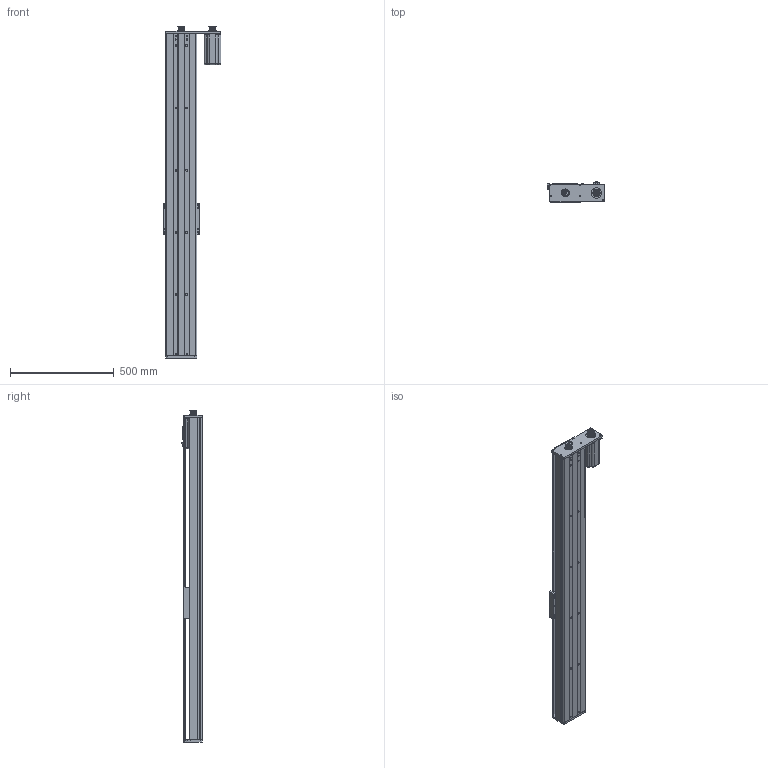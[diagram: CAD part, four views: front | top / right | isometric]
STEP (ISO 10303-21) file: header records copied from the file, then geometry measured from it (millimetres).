
FILE_DESCRIPTION (( 'STEP AP214' ), '1' );
FILE_NAME ('CF150-20-C-P1350-FWR.STEP', '2016-04-24T02:37:51', ( '' ), ( '' ), 'SwSTEP 2.0', 'SolidWorks 2015', '' );
FILE_SCHEMA (( 'AUTOMOTIVE_DESIGN' ));
Length unit declared in the file: millimetre
Products named in the file (21): HGR15-P400絳寢; CF150-20-C-P1350-FWR; SFU2010-P400-BK15+BF15佪裝萇儂奻耜; BF15; 20-5M-20-囀噤10; 80机座海德伺服电机; CF150-蹟譫釱; CF150萇儂酘耜臏倰第-P1350; BK15; hGH15CA賑輸; 撑圈-15; M15X1坶踡蹟譫; 150-电机右侧伺服80安装板; 长撑圈-15; CF150賑雄啣; CF150耜啣; ѹȦ-15; deep groove ball bearings gb_Rolling bearings 6002 GB 276-94; CF150萇儂酘耜蚾裔啣-P1350; SFU2010-3蹟譫
Assembly tree (26 placements, depth 3):
  CF150-20-C-P1350-FWR
    hGH15CA賑輸  x4
    BF15
    BK15
      deep groove ball bearings gb_Rolling bearings 6002 GB 276-94  x2
      ѹȦ-15
      长撑圈-15
      M15X1坶踡蹟譫
      撑圈-15
      BK15
    CF150萇儂酘耜蚾裔啣-P1350
    CF150萇儂酘耜臏倰第-P1350
    CF150耜啣
    CF150賑雄啣
    CF150-蹟譫釱
    SFU2010-3蹟譫
    SFU2010-P400-BK15+BF15佪裝萇儂奻耜
    HGR15-P400絳寢  x2
    20-5M-20-囀噤10  x2
    80机座海德伺服电机
    150-电机右侧伺服80安装板
Bounding box: 277.5 x 97.89 x 1600 mm (x, y, z)
Volume: 8155091.8 mm3; surface area: 2322631.4 mm2
Topology: 25 solids, 25 shells, 1767 faces, 5477 edges, 3634 vertices
Faces by surface type: cylinder 949, plane 608, torus 124, sphere 64, cone 18, bspline 4
Entity records: 125121 total; most frequent: CARTESIAN_POINT 87462, ORIENTED_EDGE 7570, DIRECTION 6998, EDGE_CURVE 3785, AXIS2_PLACEMENT_3D 2661, VERTEX_POINT 2506, LINE 1676, VECTOR 1676
